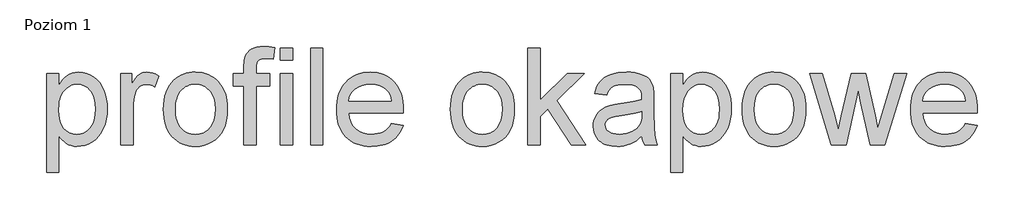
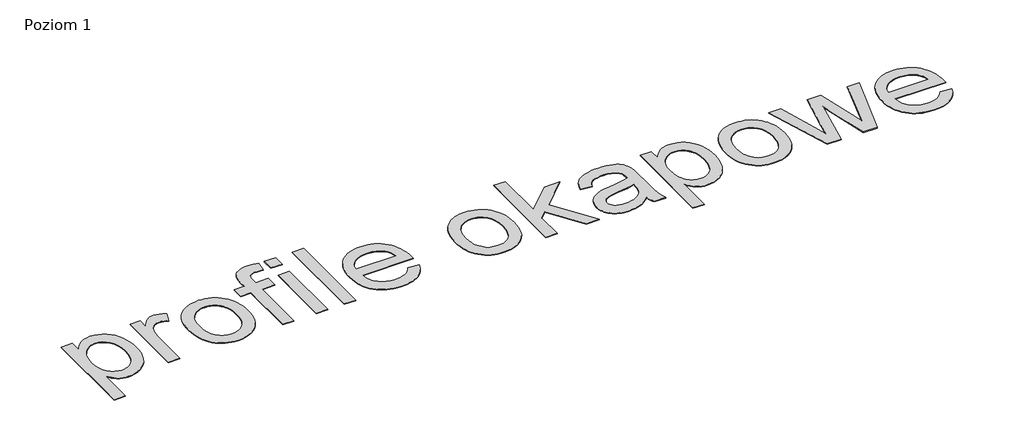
# One storey, part 3 of 4: 1 proxy.
"""IFC4 building model written with IfcOpenShell, lengths in millimetres."""

from ifc_helpers import new_model, si_unit, frame, origin, place, context, project, spatial, polyline, outline, extrude, element, save

model = new_model("IFC4")

# Units and contexts
model_context = context("Model", 3, world=origin())
ifc_project = project(units=[si_unit("LENGTHUNIT", "METRE", prefix="MILLI")], contexts=[model_context])

# Site, building, storey
site = spatial("IfcSite", under=ifc_project)
building = spatial("IfcBuilding", under=site)
storey = spatial("IfcBuildingStorey", under=building, Name="Poziom 1", Elevation=5.490868)

# Proxy
placement = place(None, origin())
element("IfcBuildingElementProxy", 1, Name="1500 mm Arial", ObjectType="1500 mm Arial", at=placement, inside=storey, context=model_context, shape_type="SweptSolid", body=[
    extrude(outline(polyline([(-110349.0257845, 63841.8977144), (-110349.0257845, 65372.2868143), (-110160.6702029, 65372.2868143), (-110160.6702029, 65187.6100528), (-110130.8717613, 65236.4118987), (-110099.2339098, 65278.7068318), (-110065.7566482, 65314.4948522), (-110030.4399767, 65343.7759597), (-109992.2722197, 65366.5501545), (-109950.2417017, 65382.8174365), (-109904.3484228, 65392.5778056), (-109854.592383, 65395.831262), (-109788.9024542, 65391.2787223), (-109727.2132421, 65377.6211033), (-109669.5247468, 65354.8584048), (-109615.8369681, 65322.990627), (-109567.32253, 65282.8455043), (-109525.1540563, 65235.2507711), (-109489.331547, 65180.2064276), (-109459.8550021, 65117.7124737), (-109436.8393848, 65049.9072234), (-109420.3996582, 64978.928991), (-109410.5358222, 64904.7777763), (-109407.2478768, 64827.4535795), (-109410.9611857, 64744.7835974), (-109422.1011124, 64666.3672508), (-109440.6676568, 64592.2045399), (-109466.660819, 64522.2954645), (-109499.7242134, 64458.4679383), (-109539.5014541, 64402.5498751), (-109585.9925412, 64354.5412747), (-109639.1974748, 64314.4421372), (-109696.5065918, 64282.8157819), (-109755.3102295, 64260.2255282), (-109815.6083878, 64246.6713759), (-109877.4010667, 64242.1533252), (-109921.8573065, 64245.1768553), (-109963.9912913, 64254.2474457), (-110003.8030209, 64269.3650965), (-110041.2924955, 64290.5298075), (-110075.9998625, 64316.3160361), (-110107.4652694, 64345.2982396), (-110135.6887162, 64377.4764178), (-110160.6702029, 64412.8505709), (-110160.6702029, 63841.8977144), (-110349.0257845, 63841.8977144)]), holes=[polyline([(-110160.6702029, 64810.1631257), (-110155.5773366, 64719.3882434), (-110140.2987375, 64641.3052899), (-110128.8397881, 64607.0232865), (-110114.8344056, 64575.9142653), (-110098.2825899, 64547.9782263), (-110079.184341, 64523.2151695), (-110036.268607, 64482.6561795), (-109989.0072669, 64453.6854724), (-109937.4003208, 64436.3030481), (-109881.4477686, 64430.5089067), (-109824.6904745, 64436.5099817), (-109797.8896964, 64444.0113255), (-109772.1408308, 64454.5132069), (-109723.7988374, 64484.5185821), (-109679.6644943, 64526.5261074), (-109659.962689, 64552.1801284), (-109642.8877911, 64581.1335911), (-109628.4398005, 64613.3864954), (-109616.6187173, 64648.9388413), (-109607.4245415, 64687.7906289), (-109600.8572731, 64729.9418581), (-109595.6034584, 64824.1426415), (-109600.7308137, 64914.1357746), (-109616.1128796, 64992.0807723), (-109627.649429, 65026.5352204), (-109641.7496561, 65057.9776347), (-109658.4135609, 65086.4080151), (-109677.6411433, 65111.8263618), (-109720.6603441, 65153.6729387), (-109767.6802616, 65183.5633508), (-109818.7008958, 65201.4975981), (-109873.7222467, 65207.4756805), (-109901.5519448, 65205.8863153), (-109928.5711529, 65201.1182198), (-109954.779871, 65193.1713939), (-109980.1780991, 65182.0458376), (-110028.5430851, 65150.2585339), (-110073.6661111, 65105.7563088), (-110094.0576951, 65078.8865528), (-110111.7304013, 65049.1369705), (-110126.6842296, 65016.507562), (-110138.91918, 64980.9983272), (-110148.4352525, 64942.6092662), (-110155.2324472, 64901.340379), (-110160.6702029, 64810.1631257)])]), frame((0.0, 0.0, 5.490868), z_axis=(0.0, 0.0, 1.0), x_axis=(1.0, 0.0, 0.0)), (0.0, 0.0, 1.0), 10.0),
    extrude(outline(polyline([(-109195.3478476, 64265.6977728), (-109195.3478476, 65372.2868143), (-109030.5367138, 65372.2868143), (-109030.5367138, 65208.5793265), (-108999.4966704, 65260.9105403), (-108969.6522436, 65303.4928812), (-108941.0034332, 65336.3263493), (-108913.5502393, 65359.4109445), (-108886.0510602, 65375.3448334), (-108857.264294, 65386.7261826), (-108827.1899409, 65393.5549922), (-108795.8280008, 65395.831262), (-108749.1069875, 65392.1984273), (-108702.0180921, 65381.2999232), (-108654.5613147, 65363.1357497), (-108606.7366553, 65337.7059068), (-108669.6444765, 65168.848071), (-108702.7538561, 65185.7476502), (-108735.8632356, 65197.8187781), (-108768.9726152, 65205.0614549), (-108802.0819948, 65207.4756805), (-108830.9492351, 65205.1534254), (-108858.3219548, 65198.1866601), (-108884.2001539, 65186.5753846), (-108908.5838324, 65170.319599), (-108930.5532853, 65149.9481335), (-108949.1888076, 65125.9898186), (-108964.4903993, 65098.4446542), (-108976.4580605, 65067.3126403), (-108989.8167754, 65015.9011315), (-108999.3587147, 64962.0983897), (-109005.0838782, 64905.904415), (-109006.9922661, 64847.3192072), (-109006.9922661, 64265.6977728), (-109195.3478476, 64265.6977728)])), frame((0.0, 0.0, 5.490868), z_axis=(0.0, 0.0, 1.0), x_axis=(1.0, 0.0, 0.0)), (0.0, 0.0, 1.0), 10.0),
    extrude(outline(polyline([(-108536.1033122, 64818.9922936), (-108533.5568791, 64893.1262638), (-108525.9175795, 64962.3053233), (-108513.1854136, 65026.5294723), (-108495.3603813, 65085.7987106), (-108472.4424826, 65140.1130383), (-108444.4317176, 65189.4724554), (-108411.3280862, 65233.8769618), (-108373.1315884, 65273.3265576), (-108338.1713025, 65302.0385977), (-108301.3486141, 65326.9223658), (-108262.663523, 65347.9778619), (-108222.1160294, 65365.2050859), (-108179.7061331, 65378.604038), (-108135.4338343, 65388.174718), (-108089.2991328, 65393.917126), (-108041.3020287, 65395.831262), (-107988.0999693, 65393.5003847), (-107937.3868614, 65386.5077527), (-107889.1627052, 65374.8533661), (-107843.4275006, 65358.5372248), (-107800.1812476, 65337.5593288), (-107759.4239462, 65311.9196782), (-107721.1555965, 65281.6182729), (-107685.3761984, 65246.655113), (-107652.9997087, 65207.5820214), (-107624.9400844, 65164.9508211), (-107601.1973253, 65118.7615122), (-107581.7714315, 65069.0140946), (-107566.662403, 65015.7085683), (-107555.8702398, 64958.8449333), (-107549.3949419, 64898.4231897), (-107547.2365092, 64834.4433374), (-107551.0532849, 64733.6206781), (-107562.503612, 64644.1563754), (-107581.5874905, 64566.0504293), (-107608.3049204, 64499.3028398), (-107642.3225087, 64441.6488334), (-107683.3068622, 64390.8236365), (-107731.257981, 64346.8272491), (-107786.1758651, 64309.6596713), (-107845.9222004, 64280.1256448), (-107908.3586727, 64259.0299117), (-107973.4852822, 64246.3724718), (-108041.3020287, 64242.1533252), (-108095.343319, 64244.4755802), (-108146.7347093, 64251.4423455), (-108195.4761996, 64263.053621), (-108241.5677899, 64279.3094067), (-108285.0094801, 64300.2097025), (-108325.8012704, 64325.7545086), (-108363.9431607, 64355.9438248), (-108399.435151, 64390.7776512), (-108431.4667513, 64429.9800763), (-108459.2274716, 64473.2751886), (-108482.7173118, 64520.6629881), (-108501.9362719, 64572.1434748), (-108516.8843521, 64627.7166487), (-108527.5615522, 64687.3825098), (-108533.9678722, 64751.1410581), (-108536.1033122, 64818.9922936)]), holes=[polyline([(-108347.7477307, 64819.3601756), (-108342.2984787, 64727.9989813), (-108335.4869136, 64686.9140351), (-108325.9507225, 64648.8928561), (-108313.6899054, 64613.9354443), (-108298.7044622, 64582.0417998), (-108280.9943931, 64553.2119225), (-108260.5596979, 64527.4458124), (-108238.0614146, 64504.7262251), (-108214.1605812, 64485.0359162), (-108188.8571977, 64468.3748855), (-108162.1512642, 64454.7431331), (-108134.0427805, 64444.1406591), (-108104.5317467, 64436.5674633), (-108041.3020287, 64430.5089067), (-107978.3942076, 64436.6019522), (-107949.0096332, 64444.2182592), (-107921.0046163, 64454.8810889), (-107894.3791569, 64468.5904413), (-107869.133255, 64485.3463166), (-107845.2669106, 64505.1487146), (-107822.7801236, 64527.9976354), (-107802.3454284, 64553.967805), (-107784.6353592, 64583.1339494), (-107769.6499161, 64615.4960687), (-107757.389099, 64651.0541628), (-107747.8529079, 64689.8082317), (-107741.0413428, 64731.7582755), (-107735.5920907, 64825.2462875), (-107741.0758317, 64913.710411), (-107747.930508, 64953.6572224), (-107757.5270547, 64990.7472001), (-107769.8654719, 65024.9803442), (-107784.9457597, 65056.3566547), (-107802.7679179, 65084.8761315), (-107823.3319466, 65110.5387748), (-107869.8575227, 65152.948671), (-107895.1120468, 65169.6097017), (-107921.6943951, 65183.2414541), (-107949.6045674, 65193.8439281), (-107978.8425637, 65201.4171239), (-108041.3020287, 65207.4756805), (-108104.5317467, 65201.4401165), (-108134.0427805, 65193.8956615), (-108162.1512642, 65183.3334246), (-108188.8571977, 65169.7534056), (-108214.1605812, 65153.1556046), (-108238.0614146, 65133.5400217), (-108260.5596979, 65110.9066568), (-108280.9943931, 65085.2267691), (-108298.7044622, 65056.4716178), (-108313.6899054, 65024.641203), (-108325.9507225, 64989.7355246), (-108335.4869136, 64951.7545827), (-108342.2984787, 64910.6983772), (-108347.7477307, 64819.3601756)])]), frame((0.0, 0.0, 5.490868), z_axis=(0.0, 0.0, 1.0), x_axis=(1.0, 0.0, 0.0)), (0.0, 0.0, 1.0), 10.0),
    extrude(outline(polyline([(-107288.2475846, 64265.6977728), (-107288.2475846, 65183.9312328), (-107453.0587184, 65183.9312328), (-107453.0587184, 65372.2868143), (-107288.2475846, 65372.2868143), (-107288.2475846, 65483.7550589), (-107283.2811777, 65576.0014692), (-107277.073169, 65611.8469711), (-107268.3819569, 65640.8406708), (-107252.0112081, 65673.789102), (-107230.4901114, 65703.4725805), (-107203.8186667, 65729.8911063), (-107171.9968741, 65753.0446793), (-107134.3349549, 65771.875639), (-107090.1431302, 65785.3263244), (-107039.4214001, 65793.3967357), (-106982.1697646, 65796.0868728), (-106900.4079912, 65790.9365248), (-106810.3688729, 65775.4854811), (-106837.9600225, 65598.9021234), (-106893.7861153, 65605.5239993), (-106946.4852111, 65607.7312913), (-106985.3542431, 65605.7769182), (-107018.0842444, 65599.9137989), (-107044.6752149, 65590.1419334), (-107065.1271545, 65576.4613217), (-107080.3367758, 65557.446421), (-107091.2007909, 65531.6716887), (-107097.7192, 65499.1371248), (-107099.8920031, 65459.8427292), (-107099.8920031, 65372.2868143), (-106887.9919739, 65372.2868143), (-106887.9919739, 65183.9312328), (-107099.8920031, 65183.9312328), (-107099.8920031, 64265.6977728), (-107288.2475846, 64265.6977728)])), frame((0.0, 0.0, 5.490868), z_axis=(0.0, 0.0, 1.0), x_axis=(1.0, 0.0, 0.0)), (0.0, 0.0, 1.0), 10.0),
    extrude(outline(polyline([(-106723.18084, 65584.1868436), (-106723.18084, 65772.5424251), (-106534.8252585, 65772.5424251), (-106534.8252585, 65584.1868436), (-106723.18084, 65584.1868436)])), frame((0.0, 0.0, 5.490868), z_axis=(0.0, 0.0, 1.0), x_axis=(1.0, 0.0, 0.0)), (0.0, 0.0, 1.0), 10.0),
    extrude(outline(polyline([(-106723.18084, 64265.6977728), (-106723.18084, 65372.2868143), (-106534.8252585, 65372.2868143), (-106534.8252585, 64265.6977728), (-106723.18084, 64265.6977728)])), frame((0.0, 0.0, 5.490868), z_axis=(0.0, 0.0, 1.0), x_axis=(1.0, 0.0, 0.0)), (0.0, 0.0, 1.0), 10.0),
    extrude(outline(polyline([(-106252.2918862, 64265.6977728), (-106252.2918862, 65772.5424251), (-106063.9363047, 65772.5424251), (-106063.9363047, 64265.6977728), (-106252.2918862, 64265.6977728)])), frame((0.0, 0.0, 5.490868), z_axis=(0.0, 0.0, 1.0), x_axis=(1.0, 0.0, 0.0)), (0.0, 0.0, 1.0), 10.0),
    extrude(outline(polyline([(-105006.6434505, 64595.3200405), (-104821.9666889, 64571.7755928), (-104850.2821063, 64497.8083192), (-104868.1559979, 64464.1183758), (-104888.5073448, 64432.6242282), (-104911.3361471, 64403.3258761), (-104936.6424046, 64376.2233198), (-104964.4261175, 64351.3165591), (-104994.6872857, 64328.605594), (-105027.2764571, 64308.3433435), (-105062.0441797, 64290.7827264), (-105098.9904535, 64275.9237427), (-105138.1152785, 64263.7663924), (-105222.9005821, 64247.556592), (-105316.4000905, 64242.1533252), (-105376.4280854, 64244.4842025), (-105433.2716018, 64251.4768345), (-105486.9306397, 64263.1312211), (-105537.4051991, 64279.4473624), (-105584.6952799, 64300.4252584), (-105628.8008822, 64326.064909), (-105669.722006, 64356.3663143), (-105707.4586513, 64391.3294742), (-105741.344032, 64430.5002845), (-105770.7113619, 64473.4246407), (-105795.560641, 64520.1025429), (-105815.8918694, 64570.5339911), (-105831.705047, 64624.7189853), (-105843.0001739, 64682.6575254), (-105849.7772501, 64744.3496116), (-105852.0362754, 64809.7952437), (-105849.7542574, 64877.4682864), (-105842.9082034, 64941.2440791), (-105831.4981134, 65001.122622), (-105815.5239874, 65057.103915), (-105794.9858254, 65109.1879581), (-105769.8836274, 65157.3747513), (-105740.2173934, 65201.6642946), (-105705.9871234, 65242.056588), (-105668.1182705, 65278.0975273), (-105627.5362879, 65309.3330079), (-105584.2411756, 65335.76303), (-105538.2329336, 65357.3875935), (-105489.5115618, 65374.2066985), (-105438.0770604, 65386.2203449), (-105383.9294292, 65393.4285327), (-105327.0686683, 65395.831262), (-105272.067436, 65393.4342809), (-105219.6356294, 65386.2433375), (-105169.7732487, 65374.2584319), (-105122.4802938, 65357.479564), (-105077.7567646, 65335.9067339), (-105035.6026613, 65309.5399415), (-104996.0179838, 65278.3791869), (-104959.0027321, 65242.42447), (-104925.505352, 65202.1241471), (-104896.4742893, 65157.9265743), (-104871.9095439, 65109.8317516), (-104851.8111158, 65057.839679), (-104836.1790051, 65001.9503565), (-104825.0132117, 64942.1637841), (-104818.3137357, 64878.4799618), (-104816.080577, 64810.8988897), (-104817.184223, 64760.1311744), (-105663.6806939, 64760.1311744), (-105652.7706935, 64684.9682842), (-105643.2718654, 64650.8874663), (-105631.0771521, 64619.1403997), (-105616.1865535, 64589.7270846), (-105598.6000697, 64562.6475208), (-105578.3177006, 64537.9017085), (-105555.3394463, 64515.4896476), (-105503.6865149, 64478.3105734), (-105446.0325085, 64451.7540919), (-105382.377427, 64435.820203), (-105312.7212705, 64430.5089067), (-105260.6199829, 64432.9691175), (-105212.4734268, 64440.3497501), (-105168.2816022, 64452.6508043), (-105128.0445089, 64469.8722802), (-105091.7621472, 64492.4740302), (-105059.4345168, 64520.915907), (-105031.061618, 64555.1979104), (-105006.6434505, 64595.3200405)]), holes=[polyline([(-105663.6806939, 64948.4867559), (-105004.4361586, 64948.4867559), (-105014.1160535, 65001.7836599), (-105029.9119867, 65047.9988356), (-105051.8239581, 65087.1322828), (-105079.8519676, 65119.1840017), (-105104.6495133, 65139.8773639), (-105131.2174911, 65157.8116112), (-105159.5559011, 65172.9867435), (-105189.6647431, 65185.4027608), (-105255.1937235, 65201.9574506), (-105327.8044323, 65207.4756805), (-105394.0346878, 65203.0725929), (-105454.7697059, 65189.86333), (-105510.0094867, 65167.8478918), (-105559.7540303, 65137.0262784), (-105601.4971404, 65098.8240325), (-105632.7326211, 65054.6666968), (-105653.4604722, 65004.5542712), (-105663.6806939, 64948.4867559)])]), frame((0.0, 0.0, 5.490868), z_axis=(0.0, 0.0, 1.0), x_axis=(1.0, 0.0, 0.0)), (0.0, 0.0, 1.0), 10.0),
    extrude(outline(polyline([(-104086.2026986, 64818.9922936), (-104083.6562654, 64893.1262638), (-104076.0169658, 64962.3053233), (-104063.2847999, 65026.5294723), (-104045.4597676, 65085.7987106), (-104022.541869, 65140.1130383), (-103994.5311039, 65189.4724554), (-103961.4274725, 65233.8769618), (-103923.2309747, 65273.3265576), (-103888.2706889, 65302.0385977), (-103851.4480004, 65326.9223658), (-103812.7629094, 65347.9778619), (-103772.2154157, 65365.2050859), (-103729.8055194, 65378.604038), (-103685.5332206, 65388.174718), (-103639.3985191, 65393.917126), (-103591.4014151, 65395.831262), (-103538.1993556, 65393.5003847), (-103487.4862478, 65386.5077527), (-103439.2620915, 65374.8533661), (-103393.5268869, 65358.5372248), (-103350.2806339, 65337.5593288), (-103309.5233326, 65311.9196782), (-103271.2549829, 65281.6182729), (-103235.4755847, 65246.655113), (-103203.0990951, 65207.5820214), (-103175.0394707, 65164.9508211), (-103151.2967116, 65118.7615122), (-103131.8708179, 65069.0140946), (-103116.7617893, 65015.7085683), (-103105.9696261, 64958.8449333), (-103099.4943282, 64898.4231897), (-103097.3358956, 64834.4433374), (-103101.1526713, 64733.6206781), (-103112.6029984, 64644.1563754), (-103131.6868769, 64566.0504293), (-103158.4043068, 64499.3028398), (-103192.421895, 64441.6488334), (-103233.4062485, 64390.8236365), (-103281.3573673, 64346.8272491), (-103336.2752514, 64309.6596713), (-103396.0215867, 64280.1256448), (-103458.4580591, 64259.0299117), (-103523.5846685, 64246.3724718), (-103591.4014151, 64242.1533252), (-103645.4427054, 64244.4755802), (-103696.8340956, 64251.4423455), (-103745.5755859, 64263.053621), (-103791.6671762, 64279.3094067), (-103835.1088665, 64300.2097025), (-103875.9006568, 64325.7545086), (-103914.0425471, 64355.9438248), (-103949.5345374, 64390.7776512), (-103981.5661377, 64429.9800763), (-104009.3268579, 64473.2751886), (-104032.8166981, 64520.6629881), (-104052.0356583, 64572.1434748), (-104066.9837384, 64627.7166487), (-104077.6609385, 64687.3825098), (-104084.0672586, 64751.1410581), (-104086.2026986, 64818.9922936)]), holes=[polyline([(-103897.8471171, 64819.3601756), (-103892.397865, 64727.9989813), (-103885.5862999, 64686.9140351), (-103876.0501088, 64648.8928561), (-103863.7892917, 64613.9354443), (-103848.8038486, 64582.0417998), (-103831.0937794, 64553.2119225), (-103810.6590842, 64527.4458124), (-103788.1608009, 64504.7262251), (-103764.2599676, 64485.0359162), (-103738.9565841, 64468.3748855), (-103712.2506505, 64454.7431331), (-103684.1421668, 64444.1406591), (-103654.631133, 64436.5674633), (-103591.4014151, 64430.5089067), (-103528.4935939, 64436.6019522), (-103499.1090195, 64444.2182592), (-103471.1040027, 64454.8810889), (-103444.4785433, 64468.5904413), (-103419.2326413, 64485.3463166), (-103395.3662969, 64505.1487146), (-103372.8795099, 64527.9976354), (-103352.4448147, 64553.967805), (-103334.7347456, 64583.1339494), (-103319.7493024, 64615.4960687), (-103307.4884853, 64651.0541628), (-103297.9522942, 64689.8082317), (-103291.1407291, 64731.7582755), (-103285.6914771, 64825.2462875), (-103291.1752181, 64913.710411), (-103298.0298943, 64953.6572224), (-103307.626441, 64990.7472001), (-103319.9648583, 65024.9803442), (-103335.045146, 65056.3566547), (-103352.8673042, 65084.8761315), (-103373.4313329, 65110.5387748), (-103419.956909, 65152.948671), (-103445.2114332, 65169.6097017), (-103471.7937814, 65183.2414541), (-103499.7039537, 65193.8439281), (-103528.9419501, 65201.4171239), (-103591.4014151, 65207.4756805), (-103654.631133, 65201.4401165), (-103684.1421668, 65193.8956615), (-103712.2506505, 65183.3334246), (-103738.9565841, 65169.7534056), (-103764.2599676, 65153.1556046), (-103788.1608009, 65133.5400217), (-103810.6590842, 65110.9066568), (-103831.0937794, 65085.2267691), (-103848.8038486, 65056.4716178), (-103863.7892917, 65024.641203), (-103876.0501088, 64989.7355246), (-103885.5862999, 64951.7545827), (-103892.397865, 64910.6983772), (-103897.8471171, 64819.3601756)])]), frame((0.0, 0.0, 5.490868), z_axis=(0.0, 0.0, 1.0), x_axis=(1.0, 0.0, 0.0)), (0.0, 0.0, 1.0), 10.0),
    extrude(outline(polyline([(-102885.4358663, 64265.6977728), (-102885.4358663, 65772.5424251), (-102697.0802848, 65772.5424251), (-102697.0802848, 64962.8341537), (-102274.7517543, 65372.2868143), (-102014.2913018, 65372.2868143), (-102442.1380621, 64957.6838058), (-101990.7468541, 64265.6977728), (-102210.7402872, 64265.6977728), (-102577.1507544, 64826.7178155), (-102697.0802848, 64710.099223), (-102697.0802848, 64265.6977728), (-102885.4358663, 64265.6977728)])), frame((0.0, 0.0, 5.490868), z_axis=(0.0, 0.0, 1.0), x_axis=(1.0, 0.0, 0.0)), (0.0, 0.0, 1.0), 10.0),
    extrude(outline(polyline([(-101119.6022895, 64406.964459), (-101164.265463, 64365.0489042), (-101209.5954226, 64329.8012105), (-101255.5921683, 64301.221378), (-101302.2557001, 64279.3094067), (-101350.1148484, 64263.053621), (-101399.6984436, 64251.4423455), (-101451.0064856, 64244.4755802), (-101504.0389744, 64242.1533252), (-101587.904573, 64247.740533), (-101625.9659891, 64254.7245427), (-101661.4464831, 64264.5021564), (-101694.346055, 64277.0733739), (-101724.6647047, 64292.4381954), (-101752.4024324, 64310.5966207), (-101777.5592379, 64331.54865), (-101799.9339358, 64354.6734823), (-101819.3253406, 64379.3503167), (-101835.7334524, 64405.5791534), (-101849.1582712, 64433.3599921), (-101859.5997969, 64462.6928331), (-101867.0580295, 64493.5776762), (-101873.0246156, 64560.003369), (-101870.7713384, 64599.9415581), (-101864.0115067, 64638.0863225), (-101852.7451206, 64674.4376621), (-101836.9721801, 64708.995577), (-101817.5319159, 64741.0013106), (-101795.2635589, 64769.6961062), (-101770.167109, 64795.0799639), (-101742.2425663, 64817.1528836), (-101679.9325534, 64853.0213781), (-101610.356871, 64878.9570588), (-101542.5746134, 64893.3964271), (-101447.3851472, 64907.2839724), (-101343.7803803, 64921.5393997), (-101254.7989227, 64937.082414), (-101180.4407744, 64953.9130153), (-101120.7059355, 64972.0312036), (-101119.6022895, 65013.969751), (-101122.8442496, 65059.6331037), (-101132.5701298, 65098.0307869), (-101148.7799302, 65129.1628008), (-101171.4736508, 65153.0291452), (-101210.6990685, 65176.8495044), (-101258.4777427, 65193.8640467), (-101314.8096732, 65204.072772), (-101379.6948601, 65207.4756805), (-101440.0275073, 65205.210907), (-101491.8988686, 65198.4165864), (-101535.308944, 65187.0927187), (-101570.2577336, 65171.239304), (-101598.9755218, 65149.6147404), (-101623.6925934, 65120.9774264), (-101644.4089482, 65085.3273618), (-101661.1245864, 65042.6645467), (-101849.4801679, 65066.2089944), (-101835.1442664, 65120.4715886), (-101816.7846556, 65169.215953), (-101794.4013354, 65212.4420874), (-101767.994306, 65250.1499919), (-101736.4254323, 65283.0984231), (-101698.5565794, 65312.0461376), (-101654.3877473, 65336.9931354), (-101603.9189361, 65357.9394165), (-101548.1733176, 65374.5170989), (-101488.1740634, 65386.3583007), (-101423.9211737, 65393.4630217), (-101355.4146484, 65395.831262), (-101288.448629, 65393.7389332), (-101228.0814928, 65387.4619466), (-101174.31324, 65377.0003024), (-101127.1438704, 65362.3540005), (-101086.1825095, 65344.5462126), (-101051.0382826, 65324.6001107), (-101021.7111898, 65302.5156947), (-100998.2012311, 65278.2929646), (-100979.1403452, 65251.3341121), (-100963.160471, 65221.0413291), (-100950.2616086, 65187.4146154), (-100940.4437578, 65150.4539712), (-100933.5459704, 65085.3388581), (-100931.246708, 64985.6428374), (-100931.246708, 64751.3020065), (-100928.855475, 64547.1734844), (-100921.6817761, 64424.0709718), (-100907.5183193, 64343.1829181), (-100884.1578126, 64265.6977728), (-101072.5133941, 64265.6977728), (-101089.2520249, 64297.1516834), (-101102.6797177, 64331.180768), (-101112.7964726, 64367.7850265), (-101119.6022895, 64406.964459)]), holes=[polyline([(-101119.6022895, 64783.6756221), (-101176.5320282, 64767.3738511), (-101246.1536958, 64752.313682), (-101423.4728175, 64725.9181488), (-101521.1914725, 64711.4787805), (-101585.5248364, 64695.3839432), (-101627.6933101, 64674.50664), (-101644.6733634, 64661.1019398), (-101658.9172944, 64645.7198739), (-101670.1836805, 64628.9122652), (-101678.2310992, 64611.2309368), (-101683.0595503, 64592.6758887), (-101684.6690341, 64573.2471208), (-101681.1626588, 64543.9775096), (-101670.643533, 64517.237087), (-101653.1116567, 64493.0258532), (-101628.5670298, 64471.3438082), (-101597.2395787, 64453.4785388), (-101559.3592295, 64440.7176321), (-101514.9259822, 64433.061088), (-101463.939837, 64430.5089067), (-101411.8845347, 64433.3255032), (-101362.7722883, 64441.7752928), (-101316.6030979, 64455.8582754), (-101273.3769635, 64475.5744511), (-101234.381472, 64499.2913435), (-101200.9042104, 64525.3764762), (-101172.9451788, 64553.8298493), (-101150.5043771, 64584.6514627), (-101137.4675589, 64612.2426123), (-101128.1555459, 64645.7198739), (-101122.5683381, 64685.0832473), (-101120.7059355, 64730.3327328), (-101119.6022895, 64783.6756221)])]), frame((0.0, 0.0, 5.490868), z_axis=(0.0, 0.0, 1.0), x_axis=(1.0, 0.0, 0.0)), (0.0, 0.0, 1.0), 10.0),
    extrude(outline(polyline([(-100672.2577833, 63841.8977144), (-100672.2577833, 65372.2868143), (-100483.9022018, 65372.2868143), (-100483.9022018, 65187.6100528), (-100454.1037602, 65236.4118987), (-100422.4659086, 65278.7068318), (-100388.9886471, 65314.4948522), (-100353.6719755, 65343.7759597), (-100315.5042185, 65366.5501545), (-100273.4737006, 65382.8174365), (-100227.5804217, 65392.5778056), (-100177.8243818, 65395.831262), (-100112.1344531, 65391.2787223), (-100050.445241, 65377.6211033), (-99992.7567456, 65354.8584048), (-99939.068967, 65322.990627), (-99890.5545288, 65282.8455043), (-99848.3860552, 65235.2507711), (-99812.5635459, 65180.2064276), (-99783.087001, 65117.7124737), (-99760.0713837, 65049.9072234), (-99743.631657, 64978.928991), (-99733.767821, 64904.7777763), (-99730.4798757, 64827.4535795), (-99734.1931846, 64744.7835974), (-99745.3331113, 64666.3672508), (-99763.8996557, 64592.2045399), (-99789.8928179, 64522.2954645), (-99822.9562122, 64458.4679383), (-99862.733453, 64402.5498751), (-99909.2245401, 64354.5412747), (-99962.4294737, 64314.4421372), (-100019.7385907, 64282.8157819), (-100078.5422284, 64260.2255282), (-100138.8403867, 64246.6713759), (-100200.6330655, 64242.1533252), (-100245.0893054, 64245.1768553), (-100287.2232901, 64254.2474457), (-100327.0350198, 64269.3650965), (-100364.5244944, 64290.5298075), (-100399.2318614, 64316.3160361), (-100430.6972683, 64345.2982396), (-100458.9207151, 64377.4764178), (-100483.9022018, 64412.8505709), (-100483.9022018, 63841.8977144), (-100672.2577833, 63841.8977144)]), holes=[polyline([(-100483.9022018, 64810.1631257), (-100478.8093354, 64719.3882434), (-100463.5307363, 64641.3052899), (-100452.071787, 64607.0232865), (-100438.0664045, 64575.9142653), (-100421.5145888, 64547.9782263), (-100402.4163399, 64523.2151695), (-100359.5006059, 64482.6561795), (-100312.2392658, 64453.6854724), (-100260.6323197, 64436.3030481), (-100204.6797675, 64430.5089067), (-100147.9224734, 64436.5099817), (-100121.1216952, 64444.0113255), (-100095.3728297, 64454.5132069), (-100047.0308362, 64484.5185821), (-100002.8964931, 64526.5261074), (-99983.1946878, 64552.1801284), (-99966.1197899, 64581.1335911), (-99951.6717994, 64613.3864954), (-99939.8507162, 64648.9388413), (-99930.6565404, 64687.7906289), (-99924.089272, 64729.9418581), (-99918.8354572, 64824.1426415), (-99923.9628125, 64914.1357746), (-99939.3448785, 64992.0807723), (-99950.8814279, 65026.5352204), (-99964.981655, 65057.9776347), (-99981.6455597, 65086.4080151), (-100000.8731422, 65111.8263618), (-100043.892343, 65153.6729387), (-100090.9122605, 65183.5633508), (-100141.9328947, 65201.4975981), (-100196.9542456, 65207.4756805), (-100224.7839437, 65205.8863153), (-100251.8031518, 65201.1182198), (-100278.0118699, 65193.1713939), (-100303.4100979, 65182.0458376), (-100351.775084, 65150.2585339), (-100396.89811, 65105.7563088), (-100417.289694, 65078.8865528), (-100434.9624001, 65049.1369705), (-100449.9162284, 65016.507562), (-100462.1511789, 64980.9983272), (-100471.6672514, 64942.6092662), (-100478.4644461, 64901.340379), (-100483.9022018, 64810.1631257)])]), frame((0.0, 0.0, 5.490868), z_axis=(0.0, 0.0, 1.0), x_axis=(1.0, 0.0, 0.0)), (0.0, 0.0, 1.0), 10.0),
    extrude(outline(polyline([(-99565.6687419, 64818.9922936), (-99563.1223087, 64893.1262638), (-99555.4830091, 64962.3053233), (-99542.7508432, 65026.5294723), (-99524.9258109, 65085.7987106), (-99502.0079122, 65140.1130383), (-99473.9971472, 65189.4724554), (-99440.8935158, 65233.8769618), (-99402.697018, 65273.3265576), (-99367.7367321, 65302.0385977), (-99330.9140437, 65326.9223658), (-99292.2289526, 65347.9778619), (-99251.681459, 65365.2050859), (-99209.2715627, 65378.604038), (-99164.9992639, 65388.174718), (-99118.8645624, 65393.917126), (-99070.8674583, 65395.831262), (-99017.6653989, 65393.5003847), (-98966.952291, 65386.5077527), (-98918.7281348, 65374.8533661), (-98872.9929302, 65358.5372248), (-98829.7466772, 65337.5593288), (-98788.9893759, 65311.9196782), (-98750.7210261, 65281.6182729), (-98714.941628, 65246.655113), (-98682.5651384, 65207.5820214), (-98654.505514, 65164.9508211), (-98630.7627549, 65118.7615122), (-98611.3368611, 65069.0140946), (-98596.2278326, 65015.7085683), (-98585.4356694, 64958.8449333), (-98578.9603715, 64898.4231897), (-98576.8019388, 64834.4433374), (-98580.6187145, 64733.6206781), (-98592.0690416, 64644.1563754), (-98611.1529201, 64566.0504293), (-98637.87035, 64499.3028398), (-98671.8879383, 64441.6488334), (-98712.8722918, 64390.8236365), (-98760.8234106, 64346.8272491), (-98815.7412947, 64309.6596713), (-98875.48763, 64280.1256448), (-98937.9241023, 64259.0299117), (-99003.0507118, 64246.3724718), (-99070.8674583, 64242.1533252), (-99124.9087486, 64244.4755802), (-99176.3001389, 64251.4423455), (-99225.0416292, 64263.053621), (-99271.1332195, 64279.3094067), (-99314.5749098, 64300.2097025), (-99355.3667001, 64325.7545086), (-99393.5085903, 64355.9438248), (-99429.0005806, 64390.7776512), (-99461.0321809, 64429.9800763), (-99488.7929012, 64473.2751886), (-99512.2827414, 64520.6629881), (-99531.5017016, 64572.1434748), (-99546.4497817, 64627.7166487), (-99557.1269818, 64687.3825098), (-99563.5333018, 64751.1410581), (-99565.6687419, 64818.9922936)]), holes=[polyline([(-99377.3131603, 64819.3601756), (-99371.8639083, 64727.9989813), (-99365.0523432, 64686.9140351), (-99355.5161521, 64648.8928561), (-99343.255335, 64613.9354443), (-99328.2698918, 64582.0417998), (-99310.5598227, 64553.2119225), (-99290.1251275, 64527.4458124), (-99267.6268442, 64504.7262251), (-99243.7260108, 64485.0359162), (-99218.4226273, 64468.3748855), (-99191.7166938, 64454.7431331), (-99163.6082101, 64444.1406591), (-99134.0971763, 64436.5674633), (-99070.8674583, 64430.5089067), (-99007.9596372, 64436.6019522), (-98978.5750628, 64444.2182592), (-98950.5700459, 64454.8810889), (-98923.9445865, 64468.5904413), (-98898.6986846, 64485.3463166), (-98874.8323402, 64505.1487146), (-98852.3455532, 64527.9976354), (-98831.910858, 64553.967805), (-98814.2007888, 64583.1339494), (-98799.2153457, 64615.4960687), (-98786.9545286, 64651.0541628), (-98777.4183375, 64689.8082317), (-98770.6067724, 64731.7582755), (-98765.1575204, 64825.2462875), (-98770.6412613, 64913.710411), (-98777.4959376, 64953.6572224), (-98787.0924843, 64990.7472001), (-98799.4309015, 65024.9803442), (-98814.5111893, 65056.3566547), (-98832.3333475, 65084.8761315), (-98852.8973762, 65110.5387748), (-98899.4229523, 65152.948671), (-98924.6774764, 65169.6097017), (-98951.2598247, 65183.2414541), (-98979.169997, 65193.8439281), (-99008.4079934, 65201.4171239), (-99070.8674583, 65207.4756805), (-99134.0971763, 65201.4401165), (-99163.6082101, 65193.8956615), (-99191.7166938, 65183.3334246), (-99218.4226273, 65169.7534056), (-99243.7260108, 65153.1556046), (-99267.6268442, 65133.5400217), (-99290.1251275, 65110.9066568), (-99310.5598227, 65085.2267691), (-99328.2698918, 65056.4716178), (-99343.255335, 65024.641203), (-99355.5161521, 64989.7355246), (-99365.0523432, 64951.7545827), (-99371.8639083, 64910.6983772), (-99377.3131603, 64819.3601756)])]), frame((0.0, 0.0, 5.490868), z_axis=(0.0, 0.0, 1.0), x_axis=(1.0, 0.0, 0.0)), (0.0, 0.0, 1.0), 10.0),
    extrude(outline(polyline([(-98179.857266, 64265.6977728), (-98517.9408196, 65372.2868143), (-98322.5954802, 65372.2868143), (-98131.2968427, 64726.6539128), (-98074.2751334, 64495.9919018), (-98027.55412, 64718.1926269), (-97875.618856, 65372.2868143), (-97651.9466029, 65372.2868143), (-97500.0113389, 64720.0320369), (-97458.4406735, 64518.8005855), (-97398.8437903, 64731.0684967), (-97207.5451528, 65372.2868143), (-97011.0961673, 65372.2868143), (-97350.2833669, 64265.6977728), (-97577.6344399, 64265.6977728), (-97722.579946, 64914.6416123), (-97764.5184935, 65116.9767097), (-97951.034665, 64265.6977728), (-98179.857266, 64265.6977728)])), frame((0.0, 0.0, 5.490868), z_axis=(0.0, 0.0, 1.0), x_axis=(1.0, 0.0, 0.0)), (0.0, 0.0, 1.0), 10.0),
    extrude(outline(polyline([(-96106.8422232, 64595.3200405), (-95922.1654616, 64571.7755928), (-95950.4808789, 64497.8083192), (-95968.3547706, 64464.1183758), (-95988.7061175, 64432.6242282), (-96011.5349198, 64403.3258761), (-96036.8411773, 64376.2233198), (-96064.6248902, 64351.3165591), (-96094.8860584, 64328.605594), (-96127.4752298, 64308.3433435), (-96162.2429524, 64290.7827264), (-96199.1892262, 64275.9237427), (-96238.3140512, 64263.7663924), (-96323.0993548, 64247.556592), (-96416.5988631, 64242.1533252), (-96476.6268581, 64244.4842025), (-96533.4703745, 64251.4768345), (-96587.1294124, 64263.1312211), (-96637.6039717, 64279.4473624), (-96684.8940526, 64300.4252584), (-96728.9996549, 64326.064909), (-96769.9207787, 64356.3663143), (-96807.657424, 64391.3294742), (-96841.5428047, 64430.5002845), (-96870.9101346, 64473.4246407), (-96895.7594137, 64520.1025429), (-96916.0906421, 64570.5339911), (-96931.9038197, 64624.7189853), (-96943.1989466, 64682.6575254), (-96949.9760227, 64744.3496116), (-96952.2350481, 64809.7952437), (-96949.9530301, 64877.4682864), (-96943.1069761, 64941.2440791), (-96931.6968861, 65001.122622), (-96915.7227601, 65057.103915), (-96895.1845981, 65109.1879581), (-96870.0824001, 65157.3747513), (-96840.4161661, 65201.6642946), (-96806.185896, 65242.056588), (-96768.3170432, 65278.0975273), (-96727.7350606, 65309.3330079), (-96684.4399483, 65335.76303), (-96638.4317062, 65357.3875935), (-96589.7103345, 65374.2066985), (-96538.275833, 65386.2203449), (-96484.1282019, 65393.4285327), (-96427.267441, 65395.831262), (-96372.2662086, 65393.4342809), (-96319.8344021, 65386.2433375), (-96269.9720214, 65374.2584319), (-96222.6790664, 65357.479564), (-96177.9555373, 65335.9067339), (-96135.801434, 65309.5399415), (-96096.2167565, 65278.3791869), (-96059.2015048, 65242.42447), (-96025.7041247, 65202.1241471), (-95996.673062, 65157.9265743), (-95972.1083165, 65109.8317516), (-95952.0098885, 65057.839679), (-95936.3777778, 65001.9503565), (-95925.2119844, 64942.1637841), (-95918.5125084, 64878.4799618), (-95916.2793497, 64810.8988897), (-95917.3829957, 64760.1311744), (-96763.8794666, 64760.1311744), (-96752.9694662, 64684.9682842), (-96743.4706381, 64650.8874663), (-96731.2759248, 64619.1403997), (-96716.3853262, 64589.7270846), (-96698.7988424, 64562.6475208), (-96678.5164733, 64537.9017085), (-96655.538219, 64515.4896476), (-96603.8852876, 64478.3105734), (-96546.2312812, 64451.7540919), (-96482.5761997, 64435.820203), (-96412.9200432, 64430.5089067), (-96360.8187556, 64432.9691175), (-96312.6721995, 64440.3497501), (-96268.4803748, 64452.6508043), (-96228.2432816, 64469.8722802), (-96191.9609198, 64492.4740302), (-96159.6332895, 64520.915907), (-96131.2603906, 64555.1979104), (-96106.8422232, 64595.3200405)]), holes=[polyline([(-96763.8794666, 64948.4867559), (-96104.6349312, 64948.4867559), (-96114.3148262, 65001.7836599), (-96130.1107594, 65047.9988356), (-96152.0227307, 65087.1322828), (-96180.0507402, 65119.1840017), (-96204.848286, 65139.8773639), (-96231.4162638, 65157.8116112), (-96259.7546738, 65172.9867435), (-96289.8635158, 65185.4027608), (-96355.3924962, 65201.9574506), (-96428.003205, 65207.4756805), (-96494.2334604, 65203.0725929), (-96554.9684786, 65189.86333), (-96610.2082594, 65167.8478918), (-96659.952803, 65137.0262784), (-96701.6959131, 65098.8240325), (-96732.9313937, 65054.6666968), (-96753.6592449, 65004.5542712), (-96763.8794666, 64948.4867559)])]), frame((0.0, 0.0, 5.490868), z_axis=(0.0, 0.0, 1.0), x_axis=(1.0, 0.0, 0.0)), (0.0, 0.0, 1.0), 10.0),
])

save(model, "model.ifc")
